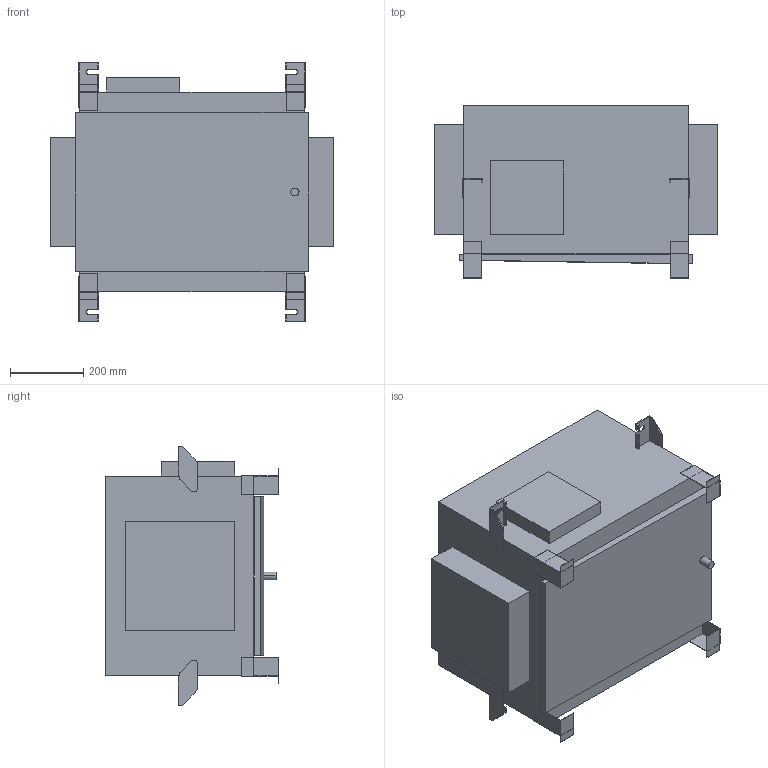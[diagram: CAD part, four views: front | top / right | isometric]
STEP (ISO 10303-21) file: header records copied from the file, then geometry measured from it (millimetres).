
FILE_DESCRIPTION (( 'STEP AP214' ), '1' );
FILE_NAME ('BIS-301モックアップデータ.STEP', '2021-08-30T04:03:12', ( '' ), ( '' ), 'SwSTEP 2.0', 'SolidWorks 2020', '' );
FILE_SCHEMA (( 'AUTOMOTIVE_DESIGN' ));
Length unit declared in the file: millimetre
Products named in the file (1): BIS-301儌僢僋傾僢僾僨乕僞
Bounding box: 772 x 473.8 x 705.6 mm (x, y, z)
Volume: 157277513.6 mm3; surface area: 2575202.7 mm2
Topology: 2 solids, 2 shells, 194 faces, 538 edges, 352 vertices
Faces by surface type: plane 168, cylinder 26
Entity records: 6434 total; most frequent: CARTESIAN_POINT 1085, ORIENTED_EDGE 1076, DIRECTION 980, EDGE_CURVE 538, LINE 486, VECTOR 486, VERTEX_POINT 352, AXIS2_PLACEMENT_3D 247
